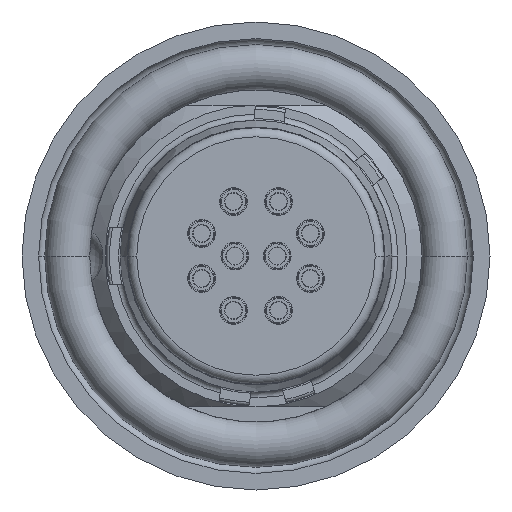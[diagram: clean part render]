
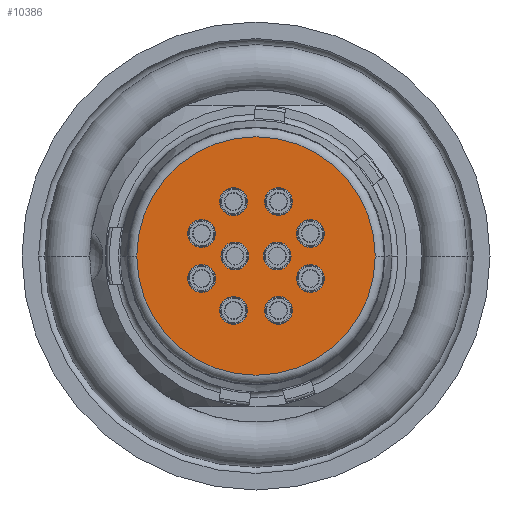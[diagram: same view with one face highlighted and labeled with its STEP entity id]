
A CAD part, left-side view. The second image highlights one B-rep face of the part: STEP entity #10386.
In plain terms, the highlighted planar face has unit normal (-1, 0, 0).
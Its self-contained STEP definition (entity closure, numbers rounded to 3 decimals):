
#3467=CARTESIAN_POINT('',(-8.5,0.,0.));
#3468=DIRECTION('',(1.,0.,0.));
#3469=DIRECTION('',(0.,1.,0.));
#3470=AXIS2_PLACEMENT_3D('',#3467,#3468,#3469);
#3472=CARTESIAN_POINT('',(-8.5,0.,0.));
#3473=DIRECTION('',(1.,0.,0.));
#3474=DIRECTION('',(0.,-1.,0.));
#3475=AXIS2_PLACEMENT_3D('',#3472,#3473,#3474);
#3477=CARTESIAN_POINT('',(-8.5,0.7,0.));
#3478=DIRECTION('',(-1.,0.,0.));
#3479=DIRECTION('',(0.,-1.,0.));
#3480=AXIS2_PLACEMENT_3D('',#3477,#3478,#3479);
#3482=CARTESIAN_POINT('',(-8.5,0.7,0.));
#3483=DIRECTION('',(-1.,0.,0.));
#3484=DIRECTION('',(0.,1.,0.));
#3485=AXIS2_PLACEMENT_3D('',#3482,#3483,#3484);
#3487=CARTESIAN_POINT('',(-8.5,-0.7,0.));
#3488=DIRECTION('',(-1.,0.,0.));
#3489=DIRECTION('',(0.,1.,0.));
#3490=AXIS2_PLACEMENT_3D('',#3487,#3488,#3489);
#3492=CARTESIAN_POINT('',(-8.5,-0.7,0.));
#3493=DIRECTION('',(-1.,0.,0.));
#3494=DIRECTION('',(0.,-1.,0.));
#3495=AXIS2_PLACEMENT_3D('',#3492,#3493,#3494);
#3497=CARTESIAN_POINT('',(-8.5,1.802,-0.746));
#3498=DIRECTION('',(-1.,0.,0.));
#3499=DIRECTION('',(0.,0.707,-0.707));
#3500=AXIS2_PLACEMENT_3D('',#3497,#3498,#3499);
#3502=CARTESIAN_POINT('',(-8.5,1.802,-0.746));
#3503=DIRECTION('',(-1.,0.,0.));
#3504=DIRECTION('',(0.,-0.707,0.707));
#3505=AXIS2_PLACEMENT_3D('',#3502,#3503,#3504);
#3507=CARTESIAN_POINT('',(-8.5,0.746,-1.802));
#3508=DIRECTION('',(-1.,0.,0.));
#3509=DIRECTION('',(0.,0.,-1.));
#3510=AXIS2_PLACEMENT_3D('',#3507,#3508,#3509);
#3512=CARTESIAN_POINT('',(-8.5,0.746,-1.802));
#3513=DIRECTION('',(-1.,0.,0.));
#3514=DIRECTION('',(0.,0.,1.));
#3515=AXIS2_PLACEMENT_3D('',#3512,#3513,#3514);
#3517=CARTESIAN_POINT('',(-8.5,-0.746,-1.802));
#3518=DIRECTION('',(-1.,0.,0.));
#3519=DIRECTION('',(0.,-0.707,-0.707));
#3520=AXIS2_PLACEMENT_3D('',#3517,#3518,#3519);
#3522=CARTESIAN_POINT('',(-8.5,-0.746,-1.802));
#3523=DIRECTION('',(-1.,0.,0.));
#3524=DIRECTION('',(0.,0.707,0.707));
#3525=AXIS2_PLACEMENT_3D('',#3522,#3523,#3524);
#3527=CARTESIAN_POINT('',(-8.5,-1.802,-0.746));
#3528=DIRECTION('',(-1.,0.,0.));
#3529=DIRECTION('',(0.,-1.,0.));
#3530=AXIS2_PLACEMENT_3D('',#3527,#3528,#3529);
#3532=CARTESIAN_POINT('',(-8.5,-1.802,-0.746));
#3533=DIRECTION('',(-1.,0.,0.));
#3534=DIRECTION('',(0.,1.,0.));
#3535=AXIS2_PLACEMENT_3D('',#3532,#3533,#3534);
#3537=CARTESIAN_POINT('',(-8.5,-1.802,0.746));
#3538=DIRECTION('',(-1.,0.,0.));
#3539=DIRECTION('',(0.,-0.707,0.707));
#3540=AXIS2_PLACEMENT_3D('',#3537,#3538,#3539);
#3542=CARTESIAN_POINT('',(-8.5,-1.802,0.746));
#3543=DIRECTION('',(-1.,0.,0.));
#3544=DIRECTION('',(0.,0.707,-0.707));
#3545=AXIS2_PLACEMENT_3D('',#3542,#3543,#3544);
#3547=CARTESIAN_POINT('',(-8.5,-0.746,1.802));
#3548=DIRECTION('',(-1.,0.,0.));
#3549=DIRECTION('',(0.,0.,1.));
#3550=AXIS2_PLACEMENT_3D('',#3547,#3548,#3549);
#3552=CARTESIAN_POINT('',(-8.5,-0.746,1.802));
#3553=DIRECTION('',(-1.,0.,0.));
#3554=DIRECTION('',(0.,0.,-1.));
#3555=AXIS2_PLACEMENT_3D('',#3552,#3553,#3554);
#3557=CARTESIAN_POINT('',(-8.5,0.746,1.802));
#3558=DIRECTION('',(-1.,0.,0.));
#3559=DIRECTION('',(0.,0.707,0.707));
#3560=AXIS2_PLACEMENT_3D('',#3557,#3558,#3559);
#3562=CARTESIAN_POINT('',(-8.5,0.746,1.802));
#3563=DIRECTION('',(-1.,0.,0.));
#3564=DIRECTION('',(0.,-0.707,-0.707));
#3565=AXIS2_PLACEMENT_3D('',#3562,#3563,#3564);
#3567=CARTESIAN_POINT('',(-8.5,1.802,0.746));
#3568=DIRECTION('',(-1.,0.,0.));
#3569=DIRECTION('',(0.,1.,0.));
#3570=AXIS2_PLACEMENT_3D('',#3567,#3568,#3569);
#3572=CARTESIAN_POINT('',(-8.5,1.802,0.746));
#3573=DIRECTION('',(-1.,0.,0.));
#3574=DIRECTION('',(0.,-1.,0.));
#3575=AXIS2_PLACEMENT_3D('',#3572,#3573,#3574);
#4615=CARTESIAN_POINT('',(-8.5,-1.16,0.));
#4616=VERTEX_POINT('',#4615);
#4617=CARTESIAN_POINT('',(-8.5,-0.24,0.));
#4618=VERTEX_POINT('',#4617);
#4619=CARTESIAN_POINT('',(-8.5,3.95,-0.001));
#4620=CARTESIAN_POINT('',(-8.5,-3.95,0.001));
#4621=VERTEX_POINT('',#4619);
#4622=VERTEX_POINT('',#4620);
#4623=CARTESIAN_POINT('',(-8.5,0.24,0.));
#4624=CARTESIAN_POINT('',(-8.5,1.16,0.));
#4625=VERTEX_POINT('',#4623);
#4626=VERTEX_POINT('',#4624);
#4627=CARTESIAN_POINT('',(-8.5,2.127,-1.072));
#4628=CARTESIAN_POINT('',(-8.5,1.476,-0.421));
#4629=VERTEX_POINT('',#4627);
#4630=VERTEX_POINT('',#4628);
#4631=CARTESIAN_POINT('',(-8.5,0.746,-2.262));
#4632=CARTESIAN_POINT('',(-8.5,0.746,-1.342));
#4633=VERTEX_POINT('',#4631);
#4634=VERTEX_POINT('',#4632);
#4635=CARTESIAN_POINT('',(-8.5,-1.072,-2.127));
#4636=CARTESIAN_POINT('',(-8.5,-0.421,-1.476));
#4637=VERTEX_POINT('',#4635);
#4638=VERTEX_POINT('',#4636);
#4639=CARTESIAN_POINT('',(-8.5,-2.262,-0.746));
#4640=CARTESIAN_POINT('',(-8.5,-1.342,-0.746));
#4641=VERTEX_POINT('',#4639);
#4642=VERTEX_POINT('',#4640);
#4643=CARTESIAN_POINT('',(-8.5,-2.127,1.072));
#4644=CARTESIAN_POINT('',(-8.5,-1.476,0.421));
#4645=VERTEX_POINT('',#4643);
#4646=VERTEX_POINT('',#4644);
#4647=CARTESIAN_POINT('',(-8.5,-0.746,2.262));
#4648=CARTESIAN_POINT('',(-8.5,-0.746,1.342));
#4649=VERTEX_POINT('',#4647);
#4650=VERTEX_POINT('',#4648);
#4651=CARTESIAN_POINT('',(-8.5,1.072,2.127));
#4652=CARTESIAN_POINT('',(-8.5,0.421,1.476));
#4653=VERTEX_POINT('',#4651);
#4654=VERTEX_POINT('',#4652);
#4655=CARTESIAN_POINT('',(-8.5,2.262,0.746));
#4656=CARTESIAN_POINT('',(-8.5,1.342,0.746));
#4657=VERTEX_POINT('',#4655);
#4658=VERTEX_POINT('',#4656);
#10317=CARTESIAN_POINT('',(-8.5,0.,0.));
#10318=DIRECTION('',(-1.,0.,0.));
#10319=DIRECTION('',(0.,-1.,0.));
#10320=AXIS2_PLACEMENT_3D('',#10317,#10318,#10319);
#10321=PLANE('',#10320);
#10322=ORIENTED_EDGE('',*,*,#10285,.T.);
#10323=ORIENTED_EDGE('',*,*,#10263,.T.);
#10324=EDGE_LOOP('',(#10322,#10323));
#10325=FACE_OUTER_BOUND('',#10324,.F.);
#10327=ORIENTED_EDGE('',*,*,#10326,.T.);
#10329=ORIENTED_EDGE('',*,*,#10328,.T.);
#10330=EDGE_LOOP('',(#10327,#10329));
#10331=FACE_BOUND('',#10330,.F.);
#10333=ORIENTED_EDGE('',*,*,#10332,.T.);
#10335=ORIENTED_EDGE('',*,*,#10334,.T.);
#10336=EDGE_LOOP('',(#10333,#10335));
#10337=FACE_BOUND('',#10336,.F.);
#10339=ORIENTED_EDGE('',*,*,#10338,.T.);
#10341=ORIENTED_EDGE('',*,*,#10340,.T.);
#10342=EDGE_LOOP('',(#10339,#10341));
#10343=FACE_BOUND('',#10342,.F.);
#10345=ORIENTED_EDGE('',*,*,#10344,.T.);
#10347=ORIENTED_EDGE('',*,*,#10346,.T.);
#10348=EDGE_LOOP('',(#10345,#10347));
#10349=FACE_BOUND('',#10348,.F.);
#10351=ORIENTED_EDGE('',*,*,#10350,.T.);
#10353=ORIENTED_EDGE('',*,*,#10352,.T.);
#10354=EDGE_LOOP('',(#10351,#10353));
#10355=FACE_BOUND('',#10354,.F.);
#10357=ORIENTED_EDGE('',*,*,#10356,.T.);
#10359=ORIENTED_EDGE('',*,*,#10358,.T.);
#10360=EDGE_LOOP('',(#10357,#10359));
#10361=FACE_BOUND('',#10360,.F.);
#10363=ORIENTED_EDGE('',*,*,#10362,.T.);
#10365=ORIENTED_EDGE('',*,*,#10364,.T.);
#10366=EDGE_LOOP('',(#10363,#10365));
#10367=FACE_BOUND('',#10366,.F.);
#10369=ORIENTED_EDGE('',*,*,#10368,.T.);
#10371=ORIENTED_EDGE('',*,*,#10370,.T.);
#10372=EDGE_LOOP('',(#10369,#10371));
#10373=FACE_BOUND('',#10372,.F.);
#10375=ORIENTED_EDGE('',*,*,#10374,.T.);
#10377=ORIENTED_EDGE('',*,*,#10376,.T.);
#10378=EDGE_LOOP('',(#10375,#10377));
#10379=FACE_BOUND('',#10378,.F.);
#10381=ORIENTED_EDGE('',*,*,#10380,.T.);
#10383=ORIENTED_EDGE('',*,*,#10382,.T.);
#10384=EDGE_LOOP('',(#10381,#10383));
#10385=FACE_BOUND('',#10384,.F.);
#3471=CIRCLE('',#3470,3.95);
#3476=CIRCLE('',#3475,3.95);
#3481=CIRCLE('',#3480,0.46);
#3486=CIRCLE('',#3485,0.46);
#3491=CIRCLE('',#3490,0.46);
#3496=CIRCLE('',#3495,0.46);
#3501=CIRCLE('',#3500,0.46);
#3506=CIRCLE('',#3505,0.46);
#3511=CIRCLE('',#3510,0.46);
#3516=CIRCLE('',#3515,0.46);
#3521=CIRCLE('',#3520,0.46);
#3526=CIRCLE('',#3525,0.46);
#3531=CIRCLE('',#3530,0.46);
#3536=CIRCLE('',#3535,0.46);
#3541=CIRCLE('',#3540,0.46);
#3546=CIRCLE('',#3545,0.46);
#3551=CIRCLE('',#3550,0.46);
#3556=CIRCLE('',#3555,0.46);
#3561=CIRCLE('',#3560,0.46);
#3566=CIRCLE('',#3565,0.46);
#3571=CIRCLE('',#3570,0.46);
#3576=CIRCLE('',#3575,0.46);
#10263=EDGE_CURVE('',#4622,#4621,#3476,.T.);
#10285=EDGE_CURVE('',#4621,#4622,#3471,.T.);
#10326=EDGE_CURVE('',#4625,#4626,#3481,.T.);
#10328=EDGE_CURVE('',#4626,#4625,#3486,.T.);
#10332=EDGE_CURVE('',#4618,#4616,#3491,.T.);
#10334=EDGE_CURVE('',#4616,#4618,#3496,.T.);
#10338=EDGE_CURVE('',#4629,#4630,#3501,.T.);
#10340=EDGE_CURVE('',#4630,#4629,#3506,.T.);
#10344=EDGE_CURVE('',#4633,#4634,#3511,.T.);
#10346=EDGE_CURVE('',#4634,#4633,#3516,.T.);
#10350=EDGE_CURVE('',#4637,#4638,#3521,.T.);
#10352=EDGE_CURVE('',#4638,#4637,#3526,.T.);
#10356=EDGE_CURVE('',#4641,#4642,#3531,.T.);
#10358=EDGE_CURVE('',#4642,#4641,#3536,.T.);
#10362=EDGE_CURVE('',#4645,#4646,#3541,.T.);
#10364=EDGE_CURVE('',#4646,#4645,#3546,.T.);
#10368=EDGE_CURVE('',#4649,#4650,#3551,.T.);
#10370=EDGE_CURVE('',#4650,#4649,#3556,.T.);
#10374=EDGE_CURVE('',#4653,#4654,#3561,.T.);
#10376=EDGE_CURVE('',#4654,#4653,#3566,.T.);
#10380=EDGE_CURVE('',#4657,#4658,#3571,.T.);
#10382=EDGE_CURVE('',#4658,#4657,#3576,.T.);
#10386=ADVANCED_FACE('',(#10325,#10331,#10337,#10343,#10349,#10355,#10361,
#10367,#10373,#10379,#10385),#10321,.T.);
